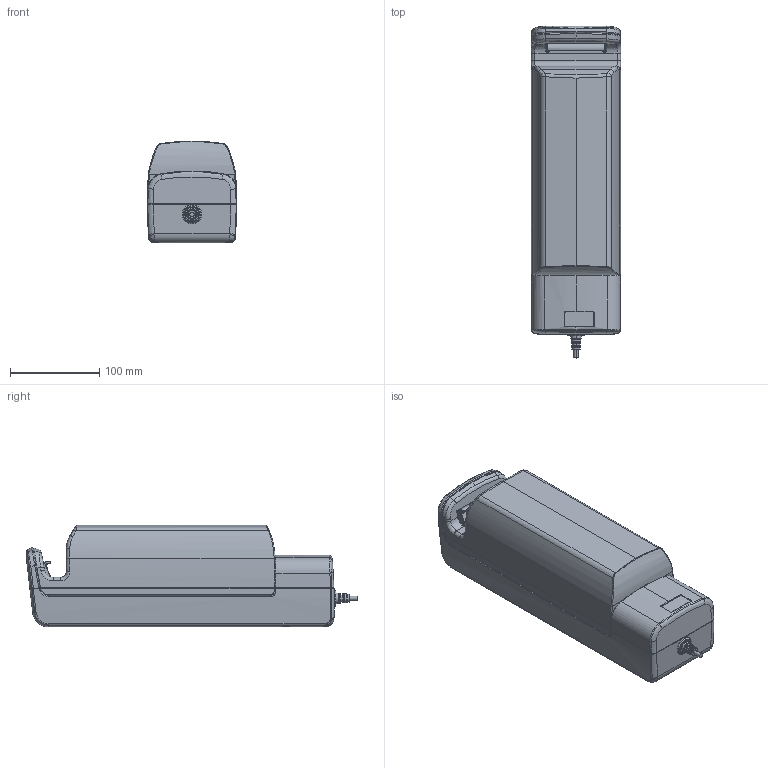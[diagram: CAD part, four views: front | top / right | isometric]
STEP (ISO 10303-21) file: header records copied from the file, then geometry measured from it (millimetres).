
FILE_DESCRIPTION (( 'STEP AP214' ), '1' );
FILE_NAME ('產品三維模型圖-TBB7-5A電池-A.STEP', '2016-01-05T02:38:03', ( '' ), ( '' ), 'SwSTEP 2.0', 'SolidWorks 2015', '' );
FILE_SCHEMA (( 'AUTOMOTIVE_DESIGN' ));
Length unit declared in the file: millimetre
Products named in the file (1): 產品三維模型圖-TBB7-5A電池-A
Bounding box: 100 x 371.27 x 113.85 mm (x, y, z)
Volume: 3245985.9 mm3; surface area: 278864.6 mm2
Topology: 5 solids, 5 shells, 635 faces, 1643 edges, 1037 vertices
Faces by surface type: plane 203, cylinder 192, bspline 138, torus 60, cone 42
Entity records: 28222 total; most frequent: CARTESIAN_POINT 13797, ORIENTED_EDGE 3278, DIRECTION 2673, EDGE_CURVE 1639, VERTEX_POINT 1037, AXIS2_PLACEMENT_3D 1028, EDGE_LOOP 658, ADVANCED_FACE 635
